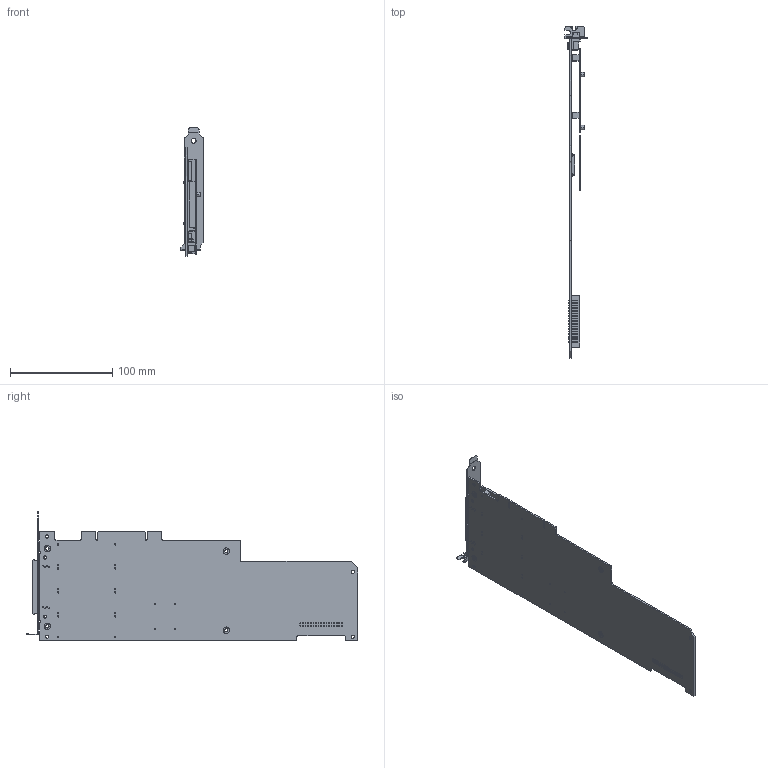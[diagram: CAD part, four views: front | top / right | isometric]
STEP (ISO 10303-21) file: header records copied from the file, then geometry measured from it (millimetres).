
FILE_DESCRIPTION((''),'2;1');
FILE_NAME('CD_PCI-6110','2009-06-03T',('scarrasc'),(''),'PRO/ENGINEER BY PARAMETRIC TECHNOLOGY CORPORATION, 2006300','PRO/ENGINEER BY PARAMETRIC TECHNOLOGY CORPORATION, 2006300','');
FILE_SCHEMA(('CONFIG_CONTROL_DESIGN'));
Length unit declared in the file: inch
Products named in the file (1): CD_PCI-6110
Bounding box: 21.59 x 325.13 x 126.21 mm (x, y, z)
Volume: 70035.5 mm3; surface area: 92299.3 mm2
Topology: 6 solids, 6 shells, 1203 faces, 3197 edges, 2118 vertices
Faces by surface type: plane 836, cylinder 363, bspline 4
Entity records: 37785 total; most frequent: CARTESIAN_POINT 6648, ORIENTED_EDGE 6394, DIRECTION 6305, EDGE_CURVE 3197, VECTOR 2471, LINE 2471, VERTEX_POINT 2118, AXIS2_PLACEMENT_3D 1917
